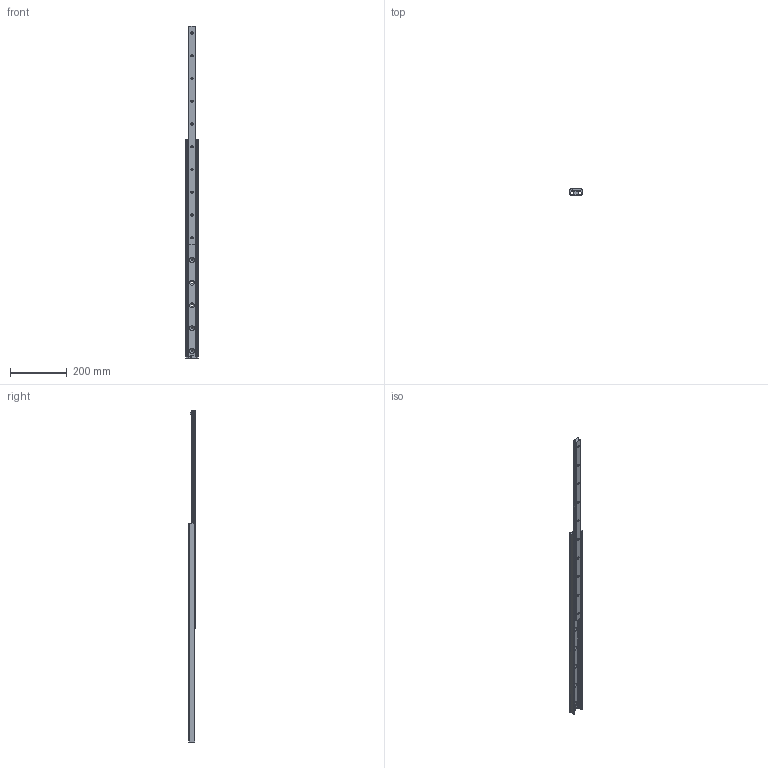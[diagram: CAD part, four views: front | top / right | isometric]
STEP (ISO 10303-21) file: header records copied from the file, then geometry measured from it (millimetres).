
FILE_DESCRIPTION(('STEP AP214'),'1');
FILE_NAME('rail_asn43-770_01.stp','2017-06-06T10:18:56',('TraceParts'),('TraceParts S.A.'),'Spatial InterOp 3D',' ',' ');
FILE_SCHEMA(('automotive_design'));
Length unit declared in the file: millimetre
Products named in the file (2): rail_asn43-770_01_1; rail_asn43-770_01_2
Bounding box: 43 x 22.01 x 1168 mm (x, y, z)
Volume: 468742.5 mm3; surface area: 182028.4 mm2
Topology: 2 solids, 2 shells, 177 faces, 444 edges, 276 vertices
Faces by surface type: cylinder 71, cone 60, plane 46
Entity records: 5410 total; most frequent: DIRECTION 1004, CARTESIAN_POINT 899, ORIENTED_EDGE 888, EDGE_CURVE 444, AXIS2_PLACEMENT_3D 381, VERTEX_POINT 276, LINE 242, VECTOR 242
